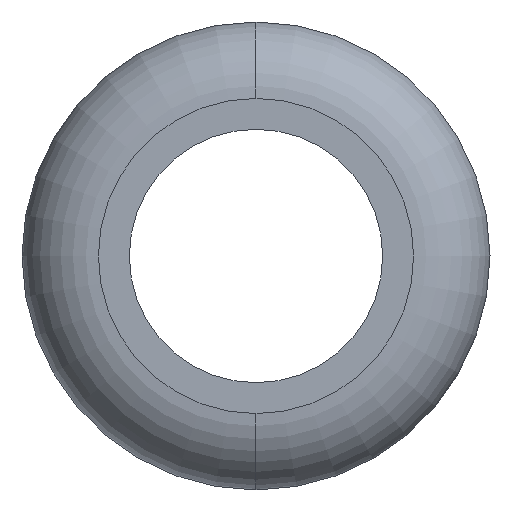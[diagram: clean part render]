
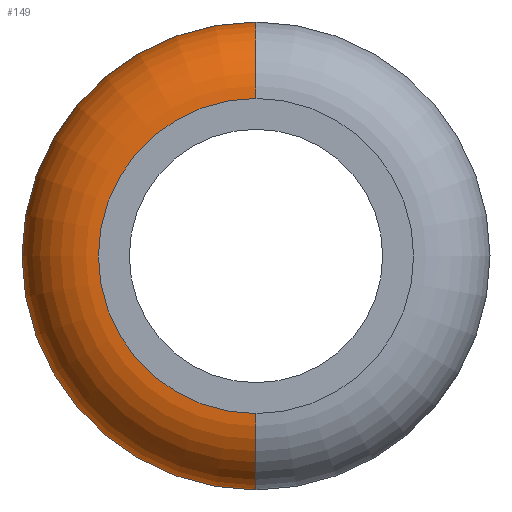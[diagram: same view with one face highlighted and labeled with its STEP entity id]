
A CAD part, left-side view. The second image highlights one B-rep face of the part: STEP entity #149.
In plain terms, the highlighted toroidal (fillet/blend) face has major radius 4.05 mm and minor radius 2 mm.
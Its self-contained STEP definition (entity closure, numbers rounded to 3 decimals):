
#149=ADVANCED_FACE('',(#334),#335,.T.);
#334=FACE_OUTER_BOUND('',#570,.T.);
#335=TOROIDAL_SURFACE('',#571,4.05,2.);
#570=EDGE_LOOP('',(#935,#936,#937,#938));
#571=AXIS2_PLACEMENT_3D('',#939,#940,#941);
#935=ORIENTED_EDGE('',*,*,#1329,.T.);
#936=ORIENTED_EDGE('',*,*,#1395,.F.);
#937=ORIENTED_EDGE('',*,*,#1396,.F.);
#938=ORIENTED_EDGE('',*,*,#1397,.F.);
#939=CARTESIAN_POINT('',(6.5,0.0,0.));
#940=DIRECTION('',(-1.0,0.0,0.));
#941=DIRECTION('',(0.,0.0,1.0));
#1329=EDGE_CURVE('',#1528,#1527,#1572,.T.);
#1395=EDGE_CURVE('',#1674,#1527,#1675,.T.);
#1396=EDGE_CURVE('',#1676,#1674,#1677,.T.);
#1397=EDGE_CURVE('',#1528,#1676,#1678,.T.);
#1527=VERTEX_POINT('',#1826);
#1528=VERTEX_POINT('',#1827);
#1572=CIRCLE('',#1871,6.05);
#1674=VERTEX_POINT('',#1987);
#1675=CIRCLE('',#1988,2.);
#1676=VERTEX_POINT('',#1989);
#1677=CIRCLE('',#1990,4.05);
#1678=CIRCLE('',#1991,2.);
#1826=CARTESIAN_POINT('',(6.5,0.,-6.05));
#1827=CARTESIAN_POINT('',(6.5,0.,6.05));
#1871=AXIS2_PLACEMENT_3D('',#2222,#2223,#2224);
#1987=CARTESIAN_POINT('',(4.5,0.,-4.05));
#1988=AXIS2_PLACEMENT_3D('',#2344,#2345,#2346);
#1989=CARTESIAN_POINT('',(4.5,0.,4.05));
#1990=AXIS2_PLACEMENT_3D('',#2347,#2348,#2349);
#1991=AXIS2_PLACEMENT_3D('',#2350,#2351,#2352);
#2222=CARTESIAN_POINT('',(6.5,0.0,0.));
#2223=DIRECTION('',(-1.0,0.0,0.));
#2224=DIRECTION('',(0.,0.0,1.0));
#2344=CARTESIAN_POINT('',(6.5,0.,-4.05));
#2345=DIRECTION('',(0.,-1.0,0.));
#2346=DIRECTION('',(0.,0.,-1.0));
#2347=CARTESIAN_POINT('',(4.5,0.0,0.));
#2348=DIRECTION('',(-1.0,0.0,0.));
#2349=DIRECTION('',(0.,0.0,-1.0));
#2350=CARTESIAN_POINT('',(6.5,0.,4.05));
#2351=DIRECTION('',(0.,-1.0,0.));
#2352=DIRECTION('',(0.,0.,1.0));
